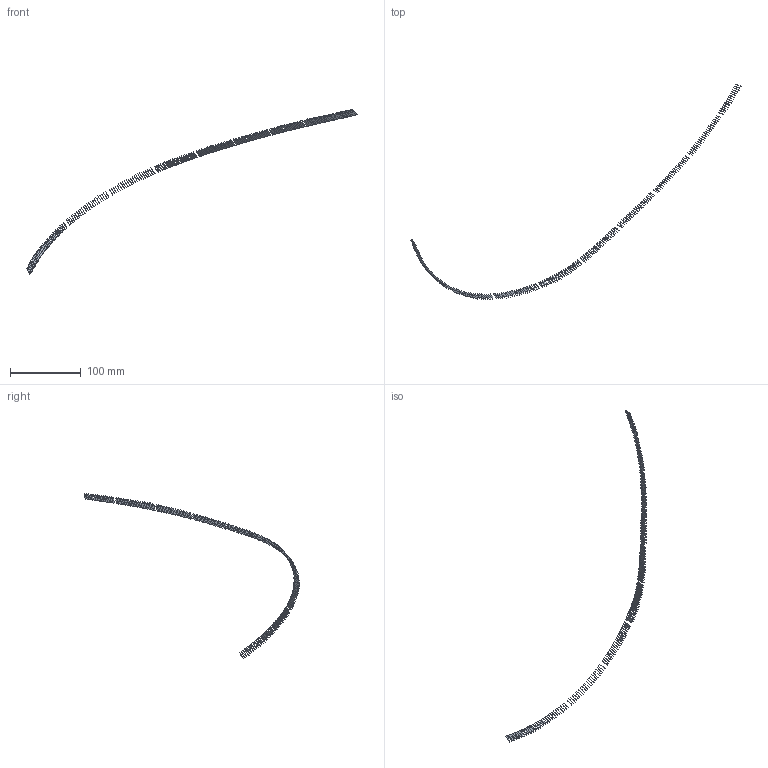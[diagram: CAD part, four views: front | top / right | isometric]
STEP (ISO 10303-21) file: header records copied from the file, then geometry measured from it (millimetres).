
FILE_DESCRIPTION(('FreeCAD Model'),'2;1');
FILE_NAME('Open CASCADE Shape Model','2022-05-22T07:50:32',('FreeCAD'),( 'FreeCAD'),'Open CASCADE STEP processor 7.5','FreeCAD','Unknown');
FILE_SCHEMA(('AUTOMOTIVE_DESIGN { 1 0 10303 214 1 1 1 1 }'));
Length unit declared in the file: millimetre
Products named in the file (214): Open CASCADE STEP translator 7.5 19; Open CASCADE STEP translator 7.5 19.1; Open CASCADE STEP translator 7.5 19.2; Open CASCADE STEP translator 7.5 19.3; Open CASCADE STEP translator 7.5 19.4; Open CASCADE STEP translator 7.5 19.5; Open CASCADE STEP translator 7.5 19.6; Open CASCADE STEP translator 7.5 19.7; Open CASCADE STEP translator 7.5 19.8; Open CASCADE STEP translator 7.5 19.9; Open CASCADE STEP translator 7.5 19.10; Open CASCADE STEP translator 7.5 19.11; Open CASCADE STEP translator 7.5 19.12; Open CASCADE STEP translator 7.5 19.13; Open CASCADE STEP translator 7.5 19.14; Open CASCADE STEP translator 7.5 19.15; Open CASCADE STEP translator 7.5 19.16; Open CASCADE STEP translator 7.5 19.17; Open CASCADE STEP translator 7.5 19.18; Open CASCADE STEP translator 7.5 19.19; Open CASCADE STEP translator 7.5 19.20; Open CASCADE STEP translator 7.5 19.21; Open CASCADE STEP translator 7.5 19.22; Open CASCADE STEP translator 7.5 19.23; Open CASCADE STEP translator 7.5 19.24; Open CASCADE STEP translator 7.5 19.25; Open CASCADE STEP translator 7.5 19.26; Open CASCADE STEP translator 7.5 19.27; Open CASCADE STEP translator 7.5 19.28; Open CASCADE STEP translator 7.5 19.29; Open CASCADE STEP translator 7.5 19.30; Open CASCADE STEP translator 7.5 19.31; Open CASCADE STEP translator 7.5 19.32; Open CASCADE STEP translator 7.5 19.33; Open CASCADE STEP translator 7.5 19.34; Open CASCADE STEP translator 7.5 19.35; Open CASCADE STEP translator 7.5 19.36; Open CASCADE STEP translator 7.5 19.37; Open CASCADE STEP translator 7.5 19.38; Open CASCADE STEP translator 7.5 19.39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
Assembly tree (213 placements, depth 2):
  Open CASCADE STEP translator 7.5 19
    Open CASCADE STEP translator 7.5 19.1
    Open CASCADE STEP translator 7.5 19.2
    Open CASCADE STEP translator 7.5 19.3
    Open CASCADE STEP translator 7.5 19.4
    Open CASCADE STEP translator 7.5 19.5
    Open CASCADE STEP translator 7.5 19.6
    Open CASCADE STEP translator 7.5 19.7
    Open CASCADE STEP translator 7.5 19.8
    Open CASCADE STEP translator 7.5 19.9
    Open CASCADE STEP translator 7.5 19.10
    Open CASCADE STEP translator 7.5 19.11
    Open CASCADE STEP translator 7.5 19.12
    Open CASCADE STEP translator 7.5 19.13
    Open CASCADE STEP translator 7.5 19.14
    Open CASCADE STEP translator 7.5 19.15
    Open CASCADE STEP translator 7.5 19.16
    Open CASCADE STEP translator 7.5 19.17
    Open CASCADE STEP translator 7.5 19.18
    Open CASCADE STEP translator 7.5 19.19
    Open CASCADE STEP translator 7.5 19.20
    Open CASCADE STEP translator 7.5 19.21
    Open CASCADE STEP translator 7.5 19.22
    Open CASCADE STEP translator 7.5 19.23
    Open CASCADE STEP translator 7.5 19.24
    Open CASCADE STEP translator 7.5 19.25
    Open CASCADE STEP translator 7.5 19.26
    Open CASCADE STEP translator 7.5 19.27
    Open CASCADE STEP translator 7.5 19.28
    Open CASCADE STEP translator 7.5 19.29
    Open CASCADE STEP translator 7.5 19.30
    Open CASCADE STEP translator 7.5 19.31
    Open CASCADE STEP translator 7.5 19.32
    Open CASCADE STEP translator 7.5 19.33
    Open CASCADE STEP translator 7.5 19.34
    Open CASCADE STEP translator 7.5 19.35
    Open CASCADE STEP translator 7.5 19.36
    Open CASCADE STEP translator 7.5 19.37
    Open CASCADE STEP translator 7.5 19.38
    Open CASCADE STEP translator 7.5 19.39
    Open CASCADE STEP translator 7.5 19.40
    Open CASCADE STEP translator 7.5 19.41
    Open CASCADE STEP translator 7.5 19.42
    Open CASCADE STEP translator 7.5 19.43
    Open CASCADE STEP translator 7.5 19.44
    Open CASCADE STEP translator 7.5 19.45
    Open CASCADE STEP translator 7.5 19.46
    Open CASCADE STEP translator 7.5 19.47
    Open CASCADE STEP translator 7.5 19.48
    Open CASCADE STEP translator 7.5 19.49
    Open CASCADE STEP translator 7.5 19.50
    Open CASCADE STEP translator 7.5 19.51
    Open CASCADE STEP translator 7.5 19.52
    Open CASCADE STEP translator 7.5 19.53
    Open CASCADE STEP translator 7.5 19.54
    Open CASCADE STEP translator 7.5 19.55
    Open CASCADE STEP translator 7.5 19.56
    Open CASCADE STEP translator 7.5 19.57
    Open CASCADE STEP translator 7.5 19.58
    Open CASCADE STEP translator 7.5 19.59
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Bounding box: 467.81 x 305.14 x 234.64 mm (x, y, z)
Surface area: 5711.6 mm2 (no closed solid volume)
Topology: 0 solids, 213 shells, 213 faces, 2439 edges, 2439 vertices
Faces by surface type: bspline 213
Entity records: 37687 total; most frequent: CARTESIAN_POINT 13261, B_SPLINE_CURVE_WITH_KNOTS 4878, ORIENTED_EDGE 2439, EDGE_CURVE 2439, VERTEX_POINT 2439, SURFACE_CURVE 2439, PCURVE 2439, DEFINITIONAL_REPRESENTATION 2439
